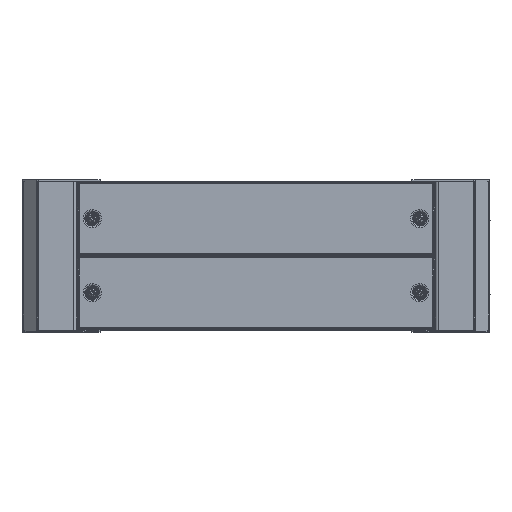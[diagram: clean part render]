
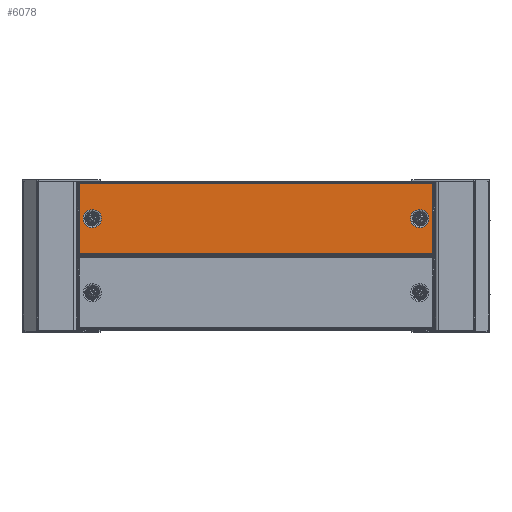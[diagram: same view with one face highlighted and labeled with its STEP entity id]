
A CAD part, top view. The second image highlights one B-rep face of the part: STEP entity #6078.
In plain terms, the highlighted planar face has unit normal (0, 0, 1) as drawn and (0, -1, 0) by its records, which use the part's own axes.
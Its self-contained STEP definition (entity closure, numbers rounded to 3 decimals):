
#68 = EDGE_CURVE ( 'NONE', #5866, #4566, #5978, .T. ) ;
#97 = CARTESIAN_POINT ( 'NONE',  ( 209.75, 0., 11.657 ) ) ;
#129 = EDGE_CURVE ( 'NONE', #4925, #3218, #2131, .T. ) ;
#147 = CARTESIAN_POINT ( 'NONE',  ( -209.75, 0., 0. ) ) ;
#243 = DIRECTION ( 'NONE',  ( 1., 0., 0. ) ) ;
#300 = CARTESIAN_POINT ( 'NONE',  ( 209.75, 0., -11.657 ) ) ;
#317 = CARTESIAN_POINT ( 'NONE',  ( -209.75, 0., 0. ) ) ;
#643 = DIRECTION ( 'NONE',  ( 0., -1., 0. ) ) ;
#648 = EDGE_CURVE ( 'NONE', #1572, #6077, #4996, .T. ) ;
#659 = DIRECTION ( 'NONE',  ( -1., 0., 0. ) ) ;
#697 = CARTESIAN_POINT ( 'NONE',  ( -209.75, 0., 11.657 ) ) ;
#764 = EDGE_CURVE ( 'NONE', #4925, #4933, #4164, .T. ) ;
#865 = CARTESIAN_POINT ( 'NONE',  ( -226.6, 0., 47. ) ) ;
#907 = LINE ( 'NONE', #865, #2265 ) ;
#1016 = DIRECTION ( 'NONE',  ( 0., 0., 1. ) ) ;
#1118 = ORIENTED_EDGE ( 'NONE', *, *, #5463, .T. ) ;
#1153 = CARTESIAN_POINT ( 'NONE',  ( 226.6, 0., -44.6 ) ) ;
#1238 = DIRECTION ( 'NONE',  ( 0., 0., 1. ) ) ;
#1469 = CARTESIAN_POINT ( 'NONE',  ( 209.75, 0., 0. ) ) ;
#1572 = VERTEX_POINT ( 'NONE', #6950 ) ;
#1752 = FACE_BOUND ( 'NONE', #6872, .T. ) ;
#1793 = DIRECTION ( 'NONE',  ( 0., 1., 0. ) ) ;
#1891 = EDGE_LOOP ( 'NONE', ( #6274, #2366 ) ) ;
#2063 = CARTESIAN_POINT ( 'NONE',  ( -226.6, 0., -44.6 ) ) ;
#2090 = DIRECTION ( 'NONE',  ( 0., 0., -1. ) ) ;
#2103 = EDGE_CURVE ( 'NONE', #6077, #1572, #4825, .T. ) ;
#2131 = LINE ( 'NONE', #3311, #2564 ) ;
#2265 = VECTOR ( 'NONE', #2090, 1000. ) ;
#2366 = ORIENTED_EDGE ( 'NONE', *, *, #648, .F. ) ;
#2367 = CARTESIAN_POINT ( 'NONE',  ( 209.75, 0., 0. ) ) ;
#2564 = VECTOR ( 'NONE', #6704, 1000. ) ;
#2594 = DIRECTION ( 'NONE',  ( 0., 1., 0. ) ) ;
#2751 = AXIS2_PLACEMENT_3D ( 'NONE', #3076, #643, #5279 ) ;
#3009 = AXIS2_PLACEMENT_3D ( 'NONE', #317, #5564, #1016 ) ;
#3067 = ORIENTED_EDGE ( 'NONE', *, *, #4260, .T. ) ;
#3076 = CARTESIAN_POINT ( 'NONE',  ( -229., 0., 47. ) ) ;
#3088 = LINE ( 'NONE', #5407, #4294 ) ;
#3102 = ORIENTED_EDGE ( 'NONE', *, *, #4568, .T. ) ;
#3218 = VERTEX_POINT ( 'NONE', #1153 ) ;
#3311 = CARTESIAN_POINT ( 'NONE',  ( 226.6, 0., 47. ) ) ;
#3563 = DIRECTION ( 'NONE',  ( 0., -1., 0. ) ) ;
#3576 = FACE_OUTER_BOUND ( 'NONE', #5405, .T. ) ;
#4065 = PLANE ( 'NONE',  #2751 ) ;
#4164 = LINE ( 'NONE', #5174, #4283 ) ;
#4166 = AXIS2_PLACEMENT_3D ( 'NONE', #2367, #1793, #1238 ) ;
#4260 = EDGE_CURVE ( 'NONE', #6752, #3218, #3088, .T. ) ;
#4283 = VECTOR ( 'NONE', #659, 1000. ) ;
#4294 = VECTOR ( 'NONE', #243, 1000. ) ;
#4566 = VERTEX_POINT ( 'NONE', #97 ) ;
#4568 = EDGE_CURVE ( 'NONE', #4566, #5866, #7423, .T. ) ;
#4671 = ORIENTED_EDGE ( 'NONE', *, *, #129, .F. ) ;
#4825 = CIRCLE ( 'NONE', #3009, 11.657 ) ;
#4925 = VERTEX_POINT ( 'NONE', #7244 ) ;
#4933 = VERTEX_POINT ( 'NONE', #7132 ) ;
#4996 = CIRCLE ( 'NONE', #5986, 11.657 ) ;
#5174 = CARTESIAN_POINT ( 'NONE',  ( 226.6, 0., 44.6 ) ) ;
#5275 = ORIENTED_EDGE ( 'NONE', *, *, #764, .T. ) ;
#5279 = DIRECTION ( 'NONE',  ( 0., 0., -1. ) ) ;
#5299 = FACE_BOUND ( 'NONE', #1891, .T. ) ;
#5356 = AXIS2_PLACEMENT_3D ( 'NONE', #1469, #2594, #6630 ) ;
#5405 = EDGE_LOOP ( 'NONE', ( #1118, #3067, #4671, #5275 ) ) ;
#5407 = CARTESIAN_POINT ( 'NONE',  ( -226.6, 0., -44.6 ) ) ;
#5463 = EDGE_CURVE ( 'NONE', #4933, #6752, #907, .T. ) ;
#5564 = DIRECTION ( 'NONE',  ( 0., -1., 0. ) ) ;
#5866 = VERTEX_POINT ( 'NONE', #300 ) ;
#5978 = CIRCLE ( 'NONE', #5356, 11.657 ) ;
#5986 = AXIS2_PLACEMENT_3D ( 'NONE', #147, #3563, #6533 ) ;
#6078 = ADVANCED_FACE ( 'NONE', ( #5299, #3576, #1752 ), #4065, .T. ) ;
#6077 = VERTEX_POINT ( 'NONE', #697 ) ;
#6274 = ORIENTED_EDGE ( 'NONE', *, *, #2103, .F. ) ;
#6533 = DIRECTION ( 'NONE',  ( 0., 0., 1. ) ) ;
#6630 = DIRECTION ( 'NONE',  ( 0., 0., 1. ) ) ;
#6704 = DIRECTION ( 'NONE',  ( 0., 0., -1. ) ) ;
#6752 = VERTEX_POINT ( 'NONE', #2063 ) ;
#6872 = EDGE_LOOP ( 'NONE', ( #3102, #6915 ) ) ;
#6915 = ORIENTED_EDGE ( 'NONE', *, *, #68, .T. ) ;
#6950 = CARTESIAN_POINT ( 'NONE',  ( -209.75, 0., -11.657 ) ) ;
#7132 = CARTESIAN_POINT ( 'NONE',  ( -226.6, 0., 44.6 ) ) ;
#7244 = CARTESIAN_POINT ( 'NONE',  ( 226.6, 0., 44.6 ) ) ;
#7423 = CIRCLE ( 'NONE', #4166, 11.657 ) ;
